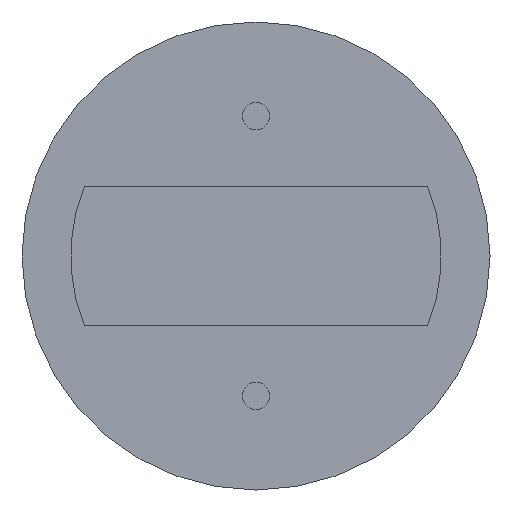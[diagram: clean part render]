
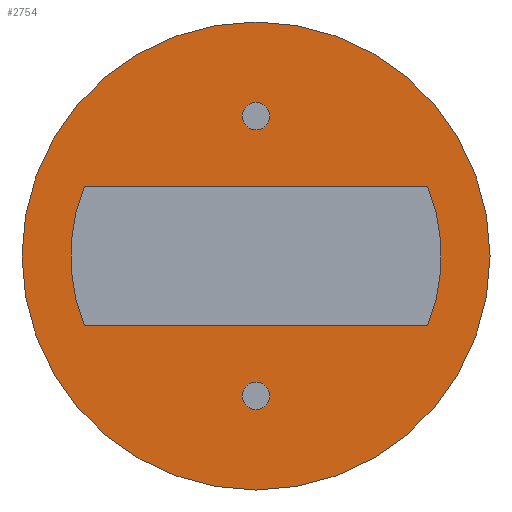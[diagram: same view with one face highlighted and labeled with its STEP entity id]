
A CAD part, front view. The second image highlights one B-rep face of the part: STEP entity #2754.
In plain terms, the highlighted planar face has unit normal (0, -1, 0).
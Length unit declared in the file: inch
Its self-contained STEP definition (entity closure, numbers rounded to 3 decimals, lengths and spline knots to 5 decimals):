
#22=CIRCLE('',#2847,0.00984);
#24=CIRCLE('',#2851,0.00984);
#25=CIRCLE('',#2854,0.1325);
#27=CIRCLE('',#2858,0.1325);
#30=CIRCLE('',#2865,0.16732);
#43=FACE_BOUND('',#423,.T.);
#44=FACE_BOUND('',#424,.T.);
#45=FACE_BOUND('',#425,.T.);
#261=FACE_OUTER_BOUND('',#422,.T.);
#422=EDGE_LOOP('',(#2501));
#423=EDGE_LOOP('',(#2502));
#424=EDGE_LOOP('',(#2503));
#425=EDGE_LOOP('',(#2504,#2505,#2506,#2507));
#802=LINE('',#5181,#1052);
#806=LINE('',#5192,#1056);
#1052=VECTOR('',#3276,0.3937);
#1056=VECTOR('',#3288,0.3937);
#1310=VERTEX_POINT('',#5159);
#1312=VERTEX_POINT('',#5166);
#1313=VERTEX_POINT('',#5171);
#1314=VERTEX_POINT('',#5172);
#1317=VERTEX_POINT('',#5180);
#1319=VERTEX_POINT('',#5186);
#1322=VERTEX_POINT('',#5200);
#1698=EDGE_CURVE('',#1310,#1310,#22,.T.);
#1701=EDGE_CURVE('',#1312,#1312,#24,.T.);
#1702=EDGE_CURVE('',#1313,#1314,#25,.T.);
#1706=EDGE_CURVE('',#1314,#1317,#802,.T.);
#1709=EDGE_CURVE('',#1317,#1319,#27,.T.);
#1712=EDGE_CURVE('',#1319,#1313,#806,.T.);
#1717=EDGE_CURVE('',#1322,#1322,#30,.T.);
#2501=ORIENTED_EDGE('',*,*,#1717,.T.);
#2502=ORIENTED_EDGE('',*,*,#1698,.T.);
#2503=ORIENTED_EDGE('',*,*,#1701,.T.);
#2504=ORIENTED_EDGE('',*,*,#1702,.T.);
#2505=ORIENTED_EDGE('',*,*,#1706,.T.);
#2506=ORIENTED_EDGE('',*,*,#1709,.T.);
#2507=ORIENTED_EDGE('',*,*,#1712,.T.);
#2583=PLANE('',#2867);
#2754=ADVANCED_FACE('',(#261,#43,#44,#45),#2583,.F.);
#2847=AXIS2_PLACEMENT_3D('',#5161,#3253,#3254);
#2851=AXIS2_PLACEMENT_3D('',#5168,#3262,#3263);
#2854=AXIS2_PLACEMENT_3D('',#5173,#3268,#3269);
#2858=AXIS2_PLACEMENT_3D('',#5187,#3281,#3282);
#2865=AXIS2_PLACEMENT_3D('',#5202,#3300,#3301);
#2867=AXIS2_PLACEMENT_3D('',#5204,#3304,#3305);
#3253=DIRECTION('center_axis',(0.,1.,0.));
#3254=DIRECTION('ref_axis',(-1.,0.,0.));
#3262=DIRECTION('center_axis',(0.,1.,0.));
#3263=DIRECTION('ref_axis',(-1.,0.,0.));
#3268=DIRECTION('center_axis',(0.,1.,0.));
#3269=DIRECTION('ref_axis',(0.926,0.,-0.377));
#3276=DIRECTION('',(-1.,0.,0.));
#3281=DIRECTION('center_axis',(0.,1.,0.));
#3282=DIRECTION('ref_axis',(-0.926,0.,0.377));
#3288=DIRECTION('',(1.,0.,0.));
#3300=DIRECTION('center_axis',(0.,-1.,0.));
#3301=DIRECTION('ref_axis',(1.,0.,0.));
#3304=DIRECTION('center_axis',(0.,1.,0.));
#3305=DIRECTION('ref_axis',(0.,0.,1.));
#5159=CARTESIAN_POINT('',(0.00984,0.,-0.1));
#5161=CARTESIAN_POINT('Origin',(0.,0.,-0.1));
#5166=CARTESIAN_POINT('',(0.00984,0.,0.1));
#5168=CARTESIAN_POINT('Origin',(0.,0.,0.1));
#5171=CARTESIAN_POINT('',(0.1227,0.,0.05));
#5172=CARTESIAN_POINT('',(0.1227,0.,-0.05));
#5173=CARTESIAN_POINT('Origin',(0.,0.,0.));
#5180=CARTESIAN_POINT('',(-0.1227,0.,-0.05));
#5181=CARTESIAN_POINT('',(-0.06135,0.,-0.05));
#5186=CARTESIAN_POINT('',(-0.1227,0.,0.05));
#5187=CARTESIAN_POINT('Origin',(0.,0.,0.));
#5192=CARTESIAN_POINT('',(0.06135,0.,0.05));
#5200=CARTESIAN_POINT('',(-0.16732,0.,0.));
#5202=CARTESIAN_POINT('Origin',(0.,0.,0.));
#5204=CARTESIAN_POINT('Origin',(0.,0.,0.));
